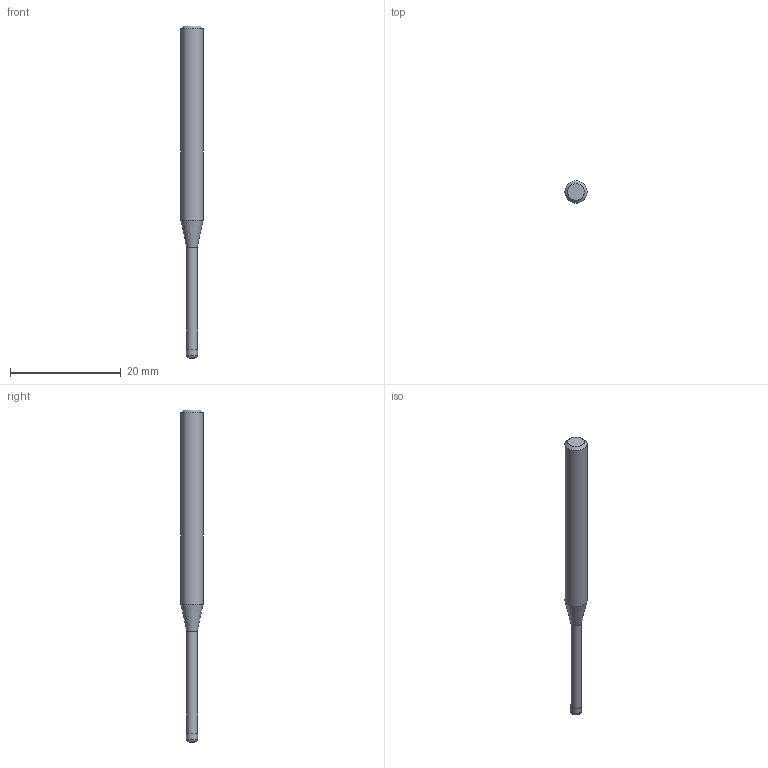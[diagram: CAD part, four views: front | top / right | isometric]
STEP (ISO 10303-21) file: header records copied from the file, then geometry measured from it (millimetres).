
FILE_DESCRIPTION((''),'2;1');
FILE_NAME('C:\Users\nsx150\AppData\Local\Temp\Mastercam 2021\3SYKECWX22\TEMP.step','2021-04-22T09:49:41',(''),(''),'STEP Write','Mastercam 2021 ... CNC Software, Inc.','');
FILE_SCHEMA(('AUTOMOTIVE_DESIGN'));
Length unit declared in the file: millimetre
Products named in the file (1): None
Bounding box: 4 x 4 x 60 mm (x, y, z)
Volume: 532 mm3; surface area: 624.2 mm2
Topology: 2 solids, 2 shells, 10 faces, 14 edges, 8 vertices
Faces by surface type: plane 4, cylinder 3, cone 2, torus 1
Full cylindrical faces by diameter (mm): 1.91 x1, 2 x1, 4 x1
Entity records: 232 total; most frequent: DIRECTION 40, CARTESIAN_POINT 28, AXIS2_PLACEMENT_3D 20, ORIENTED_EDGE 16, EDGE_LOOP 16, STYLED_ITEM 13, ADVANCED_FACE 10, FACE_BOUND 10
